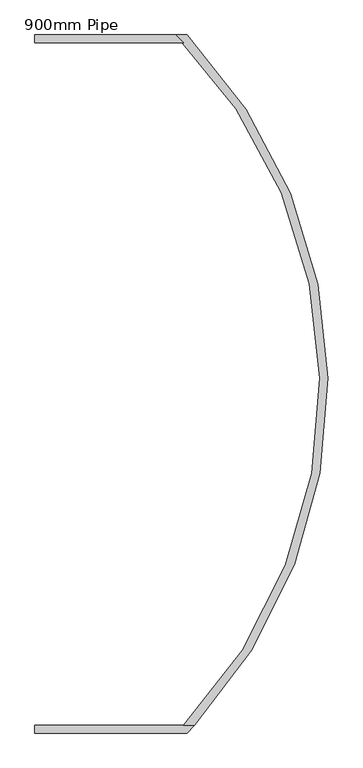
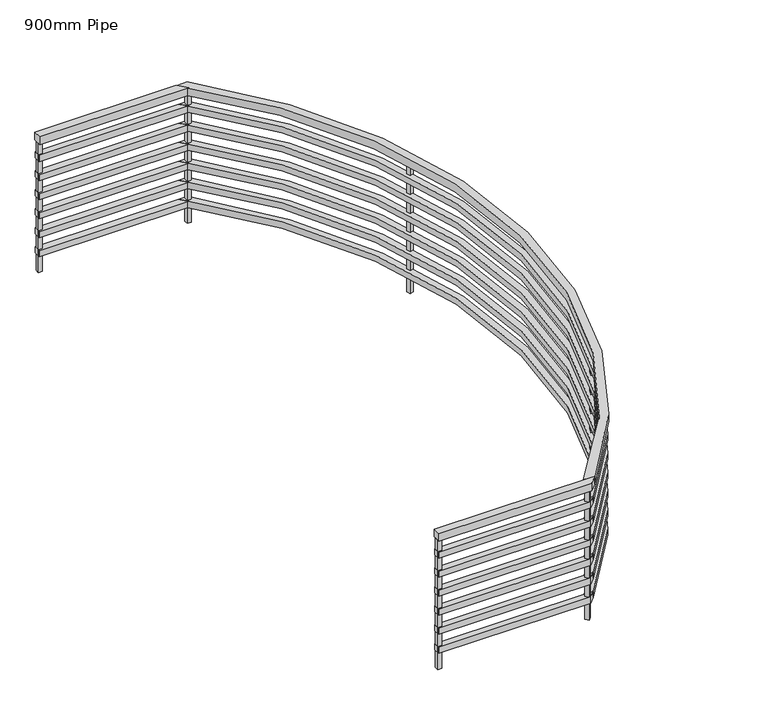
"""IFC4 building model written with IfcOpenShell, lengths in millimetres: railing geometry, 900mm Pipe."""

import ifcopenshell
import ifcopenshell.guid

model = None  # the IFC model being written
_history = None  # IfcOwnerHistory: only IFC2X3 demands one
_inside = {}  # id of a spatial element -> (the spatial element, [elements in it])
_under = {}  # id of a project, library or spatial element -> (it, [spatial elements below it])
_declared = {}  # id of a project -> (the project, [libraries it declares])
_typed = {}  # id of a type object -> (the type object, [elements of that type])
_made_of = {}  # id of a material, layer set ... -> (it, [elements and type objects made of it])


def new_model(schema):
    """Start an empty IFC model of exactly this schema.

    Asked for "IFC4X3", IfcOpenShell would pick the latest addendum, in which some entities
    have other attributes; the version numbers below select the first issue.
    IFC2X3 requires an IfcOwnerHistory on every rooted entity: one is made here for all.
    """
    global model, _history
    if schema == "IFC4X3":
        model = ifcopenshell.file(schema_version=(4, 3, 0, 0))
    else:
        model = ifcopenshell.file(schema=schema)
    _inside.clear()
    _under.clear()
    _declared.clear()
    _typed.clear()
    _made_of.clear()
    _history = None
    if model.schema == "IFC2X3":
        org = make("IfcOrganization", Name="unknown")
        user = make(
            "IfcPersonAndOrganization",
            ThePerson=make("IfcPerson", FamilyName="unknown"),
            TheOrganization=org,
        )
        app = make(
            "IfcApplication",
            ApplicationDeveloper=org,
            Version="unknown",
            ApplicationFullName="unknown",
            ApplicationIdentifier="unknown",
        )
        _history = make(
            "IfcOwnerHistory",
            OwningUser=user,
            OwningApplication=app,
            ChangeAction="ADDED",
            CreationDate=0,
        )
    return model


def make(cls, **values):
    """One entity of the class cls with the attributes given. An attribute that is None is left unset."""
    return model.create_entity(
        cls, **{name: value for name, value in values.items() if value is not None}
    )


def rooted(cls, **values):
    """An entity with a GlobalId (a new one), such as an element, a storey or a relation."""
    return make(cls, GlobalId=ifcopenshell.guid.new(), OwnerHistory=_history, **values)


def si_unit(unit_type, name, prefix=None):
    """IfcSIUnit, for example si_unit("LENGTHUNIT", "METRE", prefix="MILLI")."""
    return make("IfcSIUnit", UnitType=unit_type, Prefix=prefix, Name=name)


def assignment(units):
    """IfcUnitAssignment: the units of a project."""
    return None if units is None else make("IfcUnitAssignment", Units=units)


def point(xyz):
    """IfcCartesianPoint."""
    return None if xyz is None else make("IfcCartesianPoint", Coordinates=xyz)


def direction(xyz):
    """IfcDirection."""
    return None if xyz is None else make("IfcDirection", DirectionRatios=xyz)


def frame(location, z_axis=None, x_axis=None):
    """IfcAxis2Placement3D, a coordinate frame: its origin and axes. An axis left out is left unset."""
    return make(
        "IfcAxis2Placement3D",
        Location=point(location),
        Axis=direction(z_axis),
        RefDirection=direction(x_axis),
    )


def frame_2d(location, x_axis=None):
    """IfcAxis2Placement2D, a coordinate frame in the plane: its origin and x axis."""
    return make(
        "IfcAxis2Placement2D", Location=point(location), RefDirection=direction(x_axis)
    )


def origin():
    """The frame at (0, 0, 0) with its axes left unset."""
    return frame((0.0, 0.0, 0.0))


def place(relative_to, where):
    """IfcLocalPlacement: puts the frame where relative to a parent placement (None: the world)."""
    return make(
        "IfcLocalPlacement", PlacementRelTo=relative_to, RelativePlacement=where
    )


def context(
    kind, dimensions, precision=None, world=None, true_north=None, identifier=None
):
    """IfcGeometricRepresentationContext, for example the 3D "Model" context."""
    return make(
        "IfcGeometricRepresentationContext",
        ContextIdentifier=identifier,
        ContextType=kind,
        CoordinateSpaceDimension=dimensions,
        Precision=precision,
        WorldCoordinateSystem=world,
        TrueNorth=true_north,
    )


def project(units=None, contexts=None):
    """IfcProject with its units and contexts."""
    return rooted(
        "IfcProject",
        Name="project",
        RepresentationContexts=contexts,
        UnitsInContext=assignment(units),
    )


def spatial(cls, under=None, at=None, **own):
    """A site, building, storey or space (cls), placed at a placement, below another one or the project."""
    s = rooted(cls, ObjectPlacement=at, **own)
    if under is not None:
        _under.setdefault(under.id(), (under, []))[1].append(s)
    return s


def polyline(points):
    """IfcPolyline through the points."""
    return make("IfcPolyline", Points=[point(p) for p in points])


def circle_curve(where, radius):
    """IfcCircle in the frame where."""
    return make("IfcCircle", Position=where, Radius=radius)


def trimmed(basis, trim1, trim2, sense, master):
    """IfcTrimmedCurve: the piece of a basis curve between two trims."""
    return make(
        "IfcTrimmedCurve",
        BasisCurve=basis,
        Trim1=trim1,
        Trim2=trim2,
        SenseAgreement=sense,
        MasterRepresentation=master,
    )


def segment(curve, same_sense, transition):
    """IfcCompositeCurveSegment."""
    return make(
        "IfcCompositeCurveSegment",
        Transition=transition,
        SameSense=same_sense,
        ParentCurve=curve,
    )


def composite_curve(segments, self_intersect=None):
    """IfcCompositeCurve: segments joined end to end."""
    return make("IfcCompositeCurve", Segments=segments, SelfIntersect=self_intersect)


def outline(outer, holes=None, kind="AREA"):
    """IfcArbitraryClosedProfileDef: a profile drawn as a closed curve; with holes, ...WithVoids."""
    if holes is None:
        return make("IfcArbitraryClosedProfileDef", ProfileType=kind, OuterCurve=outer)
    return make(
        "IfcArbitraryProfileDefWithVoids",
        ProfileType=kind,
        OuterCurve=outer,
        InnerCurves=holes,
    )


def extrude(swept, where, along, depth):
    """IfcExtrudedAreaSolid: the profile swept, set in the frame where, extruded along a direction by depth."""
    return make(
        "IfcExtrudedAreaSolid",
        SweptArea=swept,
        Position=where,
        ExtrudedDirection=direction(along),
        Depth=depth,
    )


def shape(context_of_items, identifier, shape_type, items):
    """IfcShapeRepresentation: the items that make up one representation, for example the "Body"."""
    return make(
        "IfcShapeRepresentation",
        ContextOfItems=context_of_items,
        RepresentationIdentifier=identifier,
        RepresentationType=shape_type,
        Items=items,
    )


def source(mapping_origin, context_of_items, identifier, shape_type, items):
    """IfcRepresentationMap: a shape defined once, which mapped items show again and again."""
    return make(
        "IfcRepresentationMap",
        MappingOrigin=mapping_origin,
        MappedRepresentation=shape(context_of_items, identifier, shape_type, items),
    )


def transform(
    local_origin,
    x_axis=None,
    y_axis=None,
    z_axis=None,
    scale=None,
    scale2=None,
    scale3=None,
    uniform=True,
):
    """IfcCartesianTransformationOperator3D, or its non-uniform kind. x_axis, y_axis, z_axis: its Axis1, 2, 3."""
    if uniform:
        return make(
            "IfcCartesianTransformationOperator3D",
            Axis1=direction(x_axis),
            Axis2=direction(y_axis),
            LocalOrigin=point(local_origin),
            Scale=scale,
            Axis3=direction(z_axis),
        )
    return make(
        "IfcCartesianTransformationOperator3DnonUniform",
        Axis1=direction(x_axis),
        Axis2=direction(y_axis),
        LocalOrigin=point(local_origin),
        Scale=scale,
        Axis3=direction(z_axis),
        Scale2=scale2,
        Scale3=scale3,
    )


def mapped(mapping_source, mapping_target):
    """IfcMappedItem: shows the shape of a source again, moved by a transform."""
    return make(
        "IfcMappedItem", MappingSource=mapping_source, MappingTarget=mapping_target
    )


def made_of(thing, what):
    """Note that an element or type object is made of a material, layer set ...; save() writes the relation."""
    if what is not None:
        _made_of.setdefault(what.id(), (what, []))[1].append(thing)
    return thing


def element(
    cls,
    number,
    at=None,
    inside=None,
    cuts=None,
    type_object=None,
    material=None,
    context=None,
    identifier="Body",
    shape_type=None,
    held_by="IfcProductDefinitionShape",
    body=None,
    shapes=None,
    **own,
):
    """One element of the class cls, such as IfcWall. Its Tag is "e" and its number.

    at: its placement. inside: the storey or other place that contains it. cuts: it is an
    opening in that element (IfcRelVoidsElement). A single representation is given by context,
    identifier, shape_type and body (its items); several are given by shapes. held_by: the class
    of the entity that holds the representations. save() writes the other relations.
    """
    e = rooted(cls, Tag="e%d" % number, ObjectPlacement=at, **own)
    if body is not None:
        shapes = [shape(context, identifier, shape_type, body)]
    if shapes is not None:
        e.Representation = make(held_by, Representations=shapes)
    if inside is not None:
        _inside.setdefault(inside.id(), (inside, []))[1].append(e)
    if cuts is not None:
        rooted(
            "IfcRelVoidsElement", RelatingBuildingElement=cuts, RelatedOpeningElement=e
        )
    if type_object is not None:
        _typed.setdefault(type_object.id(), (type_object, []))[1].append(e)
    return made_of(e, material)


def aggregate(whole, parts):
    """IfcRelAggregates: a whole, such as a stair, and the parts it consists of."""
    return rooted("IfcRelAggregates", RelatingObject=whole, RelatedObjects=parts)


def save(model, path):
    """Write the relations noted so far, then the file.

    IfcRelAggregates (storeys below a building ...), IfcRelContainedInSpatialStructure (elements
    in a storey), IfcRelDefinesByType, IfcRelAssociatesMaterial and IfcRelDeclares: one each for
    every whole, place, type object, material and project.
    """
    for whole, parts in _under.values():
        aggregate(whole, parts)
    for where, things in _inside.values():
        rooted(
            "IfcRelContainedInSpatialStructure",
            RelatedElements=things,
            RelatingStructure=where,
        )
    for kind, things in _typed.values():
        rooted("IfcRelDefinesByType", RelatedObjects=things, RelatingType=kind)
    for what, things in _made_of.values():
        rooted("IfcRelAssociatesMaterial", RelatedObjects=things, RelatingMaterial=what)
    for by, libraries in _declared.values():
        rooted("IfcRelDeclares", RelatingContext=by, RelatedDefinitions=libraries)
    model.write(path)


def railing_900mm_pipe_71d0ca38(model_context):
    return source(origin(), model_context, "Body", "SweptSolid", [
        extrude(outline(polyline([(9362.8037835, 1617.6290541), (9362.8037835, 1667.6290541), (10241.8771052, 1667.6290541), (10289.9161763, 1617.6290541), (9362.8037835, 1617.6290541)])), frame((0.0, 0.0, 3700.0), z_axis=(0.0, 0.0, 1.0), x_axis=(1.0, 0.0, 0.0)), (0.0, 0.0, 1.0), 50.0),
        extrude(outline(composite_curve([segment(trimmed(circle_curve(frame_2d((8062.8037835, -507.3709459)), 3078.236703), [point((10289.8907148, -2632.3709459))], [point((10241.0866392, 1667.6290541))], True, "CARTESIAN"), True, "CONTINUOUS"), segment(polyline([(10241.0866392, 1667.6290541), (10311.1898424, 1667.6290541)]), True, "CONTINUOUS"), segment(trimmed(circle_curve(frame_2d((8062.8037835, -507.3709459)), 3128.236703), [point((10311.1898424, 1667.6290541))], [point((10358.504084, -2632.3709459))], False, "CARTESIAN"), True, "CONTINUOUS"), segment(polyline([(10358.504084, -2632.3709459), (10289.8907148, -2632.3709459)]), True, "CONTINUOUS")], self_intersect=False)), frame((0.0, 0.0, 3700.0), z_axis=(0.0, 0.0, 1.0), x_axis=(1.0, 0.0, 0.0)), (0.0, 0.0, 1.0), 50.0),
        extrude(outline(polyline([(10358.6242668, -2632.3709459), (10311.6425003, -2682.3709459), (9362.8037835, -2682.3709459), (9362.8037835, -2632.3709459), (10358.6242668, -2632.3709459)])), frame((0.0, 0.0, 3700.0), z_axis=(0.0, 0.0, 1.0), x_axis=(1.0, 0.0, 0.0)), (0.0, 0.0, 1.0), 50.0),
        extrude(outline(polyline([(9362.8037835, 1622.6290541), (9362.8037835, 1662.6290541), (10253.614808, 1662.6290541), (10292.0460649, 1622.6290541), (9362.8037835, 1622.6290541)])), frame((0.0, 0.0, 3585.0), z_axis=(0.0, 0.0, 1.0), x_axis=(1.0, 0.0, 0.0)), (0.0, 0.0, 1.0), 40.0),
        extrude(outline(composite_curve([segment(trimmed(circle_curve(frame_2d((8062.8037835, -507.3709459)), 3083.236703), [point((10292.0297852, -2637.3709459))], [point((10253.1116538, 1662.6290541))], True, "CARTESIAN"), True, "CONTINUOUS"), segment(polyline([(10253.1116538, 1662.6290541), (10309.0690178, 1662.6290541)]), True, "CONTINUOUS"), segment(trimmed(circle_curve(frame_2d((8062.8037835, -507.3709459)), 3123.236703), [point((10309.0690178, 1662.6290541))], [point((10347.0339608, -2637.3709459))], False, "CARTESIAN"), True, "CONTINUOUS"), segment(polyline([(10347.0339608, -2637.3709459), (10292.0297852, -2637.3709459)]), True, "CONTINUOUS")], self_intersect=False)), frame((0.0, 0.0, 3585.0), z_axis=(0.0, 0.0, 1.0), x_axis=(1.0, 0.0, 0.0)), (0.0, 0.0, 1.0), 40.0),
        extrude(outline(polyline([(10347.1119533, -2637.3709459), (10309.3595011, -2677.3709459), (9362.8037835, -2677.3709459), (9362.8037835, -2637.3709459), (10347.1119533, -2637.3709459)])), frame((0.0, 0.0, 3585.0), z_axis=(0.0, 0.0, 1.0), x_axis=(1.0, 0.0, 0.0)), (0.0, 0.0, 1.0), 40.0),
        extrude(outline(polyline([(9362.8037835, 1622.6290541), (9362.8037835, 1662.6290541), (10253.614808, 1662.6290541), (10292.0460649, 1622.6290541), (9362.8037835, 1622.6290541)])), frame((0.0, 0.0, 3460.0), z_axis=(0.0, 0.0, 1.0), x_axis=(1.0, 0.0, 0.0)), (0.0, 0.0, 1.0), 40.0),
        extrude(outline(composite_curve([segment(trimmed(circle_curve(frame_2d((8062.8037835, -507.3709459)), 3083.236703), [point((10292.0297852, -2637.3709459))], [point((10253.1116538, 1662.6290541))], True, "CARTESIAN"), True, "CONTINUOUS"), segment(polyline([(10253.1116538, 1662.6290541), (10309.0690178, 1662.6290541)]), True, "CONTINUOUS"), segment(trimmed(circle_curve(frame_2d((8062.8037835, -507.3709459)), 3123.236703), [point((10309.0690178, 1662.6290541))], [point((10347.0339608, -2637.3709459))], False, "CARTESIAN"), True, "CONTINUOUS"), segment(polyline([(10347.0339608, -2637.3709459), (10292.0297852, -2637.3709459)]), True, "CONTINUOUS")], self_intersect=False)), frame((0.0, 0.0, 3460.0), z_axis=(0.0, 0.0, 1.0), x_axis=(1.0, 0.0, 0.0)), (0.0, 0.0, 1.0), 40.0),
        extrude(outline(polyline([(10347.1119533, -2637.3709459), (10309.3595011, -2677.3709459), (9362.8037835, -2677.3709459), (9362.8037835, -2637.3709459), (10347.1119533, -2637.3709459)])), frame((0.0, 0.0, 3460.0), z_axis=(0.0, 0.0, 1.0), x_axis=(1.0, 0.0, 0.0)), (0.0, 0.0, 1.0), 40.0),
        extrude(outline(polyline([(9362.8037835, 1622.6290541), (9362.8037835, 1662.6290541), (10253.614808, 1662.6290541), (10292.0460649, 1622.6290541), (9362.8037835, 1622.6290541)])), frame((0.0, 0.0, 3335.0), z_axis=(0.0, 0.0, 1.0), x_axis=(1.0, 0.0, 0.0)), (0.0, 0.0, 1.0), 40.0),
        extrude(outline(composite_curve([segment(trimmed(circle_curve(frame_2d((8062.8037835, -507.3709459)), 3083.236703), [point((10292.0297852, -2637.3709459))], [point((10253.1116538, 1662.6290541))], True, "CARTESIAN"), True, "CONTINUOUS"), segment(polyline([(10253.1116538, 1662.6290541), (10309.0690178, 1662.6290541)]), True, "CONTINUOUS"), segment(trimmed(circle_curve(frame_2d((8062.8037835, -507.3709459)), 3123.236703), [point((10309.0690178, 1662.6290541))], [point((10347.0339608, -2637.3709459))], False, "CARTESIAN"), True, "CONTINUOUS"), segment(polyline([(10347.0339608, -2637.3709459), (10292.0297852, -2637.3709459)]), True, "CONTINUOUS")], self_intersect=False)), frame((0.0, 0.0, 3335.0), z_axis=(0.0, 0.0, 1.0), x_axis=(1.0, 0.0, 0.0)), (0.0, 0.0, 1.0), 40.0),
        extrude(outline(polyline([(10347.1119533, -2637.3709459), (10309.3595011, -2677.3709459), (9362.8037835, -2677.3709459), (9362.8037835, -2637.3709459), (10347.1119533, -2637.3709459)])), frame((0.0, 0.0, 3335.0), z_axis=(0.0, 0.0, 1.0), x_axis=(1.0, 0.0, 0.0)), (0.0, 0.0, 1.0), 40.0),
        extrude(outline(polyline([(9362.8037835, 1622.6290541), (9362.8037835, 1662.6290541), (10253.614808, 1662.6290541), (10292.0460649, 1622.6290541), (9362.8037835, 1622.6290541)])), frame((0.0, 0.0, 3210.0), z_axis=(0.0, 0.0, 1.0), x_axis=(1.0, 0.0, 0.0)), (0.0, 0.0, 1.0), 40.0),
        extrude(outline(composite_curve([segment(trimmed(circle_curve(frame_2d((8062.8037835, -507.3709459)), 3083.236703), [point((10292.0297852, -2637.3709459))], [point((10253.1116538, 1662.6290541))], True, "CARTESIAN"), True, "CONTINUOUS"), segment(polyline([(10253.1116538, 1662.6290541), (10309.0690178, 1662.6290541)]), True, "CONTINUOUS"), segment(trimmed(circle_curve(frame_2d((8062.8037835, -507.3709459)), 3123.236703), [point((10309.0690178, 1662.6290541))], [point((10347.0339608, -2637.3709459))], False, "CARTESIAN"), True, "CONTINUOUS"), segment(polyline([(10347.0339608, -2637.3709459), (10292.0297852, -2637.3709459)]), True, "CONTINUOUS")], self_intersect=False)), frame((0.0, 0.0, 3210.0), z_axis=(0.0, 0.0, 1.0), x_axis=(1.0, 0.0, 0.0)), (0.0, 0.0, 1.0), 40.0),
        extrude(outline(polyline([(10347.1119533, -2637.3709459), (10309.3595011, -2677.3709459), (9362.8037835, -2677.3709459), (9362.8037835, -2637.3709459), (10347.1119533, -2637.3709459)])), frame((0.0, 0.0, 3210.0), z_axis=(0.0, 0.0, 1.0), x_axis=(1.0, 0.0, 0.0)), (0.0, 0.0, 1.0), 40.0),
        extrude(outline(polyline([(9362.8037835, 1622.6290541), (9362.8037835, 1662.6290541), (10253.614808, 1662.6290541), (10292.0460649, 1622.6290541), (9362.8037835, 1622.6290541)])), frame((0.0, 0.0, 3085.0), z_axis=(0.0, 0.0, 1.0), x_axis=(1.0, 0.0, 0.0)), (0.0, 0.0, 1.0), 40.0),
        extrude(outline(composite_curve([segment(trimmed(circle_curve(frame_2d((8062.8037835, -507.3709459)), 3083.236703), [point((10292.0297852, -2637.3709459))], [point((10253.1116538, 1662.6290541))], True, "CARTESIAN"), True, "CONTINUOUS"), segment(polyline([(10253.1116538, 1662.6290541), (10309.0690178, 1662.6290541)]), True, "CONTINUOUS"), segment(trimmed(circle_curve(frame_2d((8062.8037835, -507.3709459)), 3123.236703), [point((10309.0690178, 1662.6290541))], [point((10347.0339608, -2637.3709459))], False, "CARTESIAN"), True, "CONTINUOUS"), segment(polyline([(10347.0339608, -2637.3709459), (10292.0297852, -2637.3709459)]), True, "CONTINUOUS")], self_intersect=False)), frame((0.0, 0.0, 3085.0), z_axis=(0.0, 0.0, 1.0), x_axis=(1.0, 0.0, 0.0)), (0.0, 0.0, 1.0), 40.0),
        extrude(outline(polyline([(10347.1119533, -2637.3709459), (10309.3595011, -2677.3709459), (9362.8037835, -2677.3709459), (9362.8037835, -2637.3709459), (10347.1119533, -2637.3709459)])), frame((0.0, 0.0, 3085.0), z_axis=(0.0, 0.0, 1.0), x_axis=(1.0, 0.0, 0.0)), (0.0, 0.0, 1.0), 40.0),
        extrude(outline(polyline([(9362.8037835, 1622.6290541), (9362.8037835, 1662.6290541), (10253.614808, 1662.6290541), (10292.0460649, 1622.6290541), (9362.8037835, 1622.6290541)])), frame((0.0, 0.0, 2960.0), z_axis=(0.0, 0.0, 1.0), x_axis=(1.0, 0.0, 0.0)), (0.0, 0.0, 1.0), 40.0),
        extrude(outline(composite_curve([segment(trimmed(circle_curve(frame_2d((8062.8037835, -507.3709459)), 3083.236703), [point((10292.0297852, -2637.3709459))], [point((10253.1116538, 1662.6290541))], True, "CARTESIAN"), True, "CONTINUOUS"), segment(polyline([(10253.1116538, 1662.6290541), (10309.0690178, 1662.6290541)]), True, "CONTINUOUS"), segment(trimmed(circle_curve(frame_2d((8062.8037835, -507.3709459)), 3123.236703), [point((10309.0690178, 1662.6290541))], [point((10347.0339608, -2637.3709459))], False, "CARTESIAN"), True, "CONTINUOUS"), segment(polyline([(10347.0339608, -2637.3709459), (10292.0297852, -2637.3709459)]), True, "CONTINUOUS")], self_intersect=False)), frame((0.0, 0.0, 2960.0), z_axis=(0.0, 0.0, 1.0), x_axis=(1.0, 0.0, 0.0)), (0.0, 0.0, 1.0), 40.0),
        extrude(outline(polyline([(10347.1119533, -2637.3709459), (10309.3595011, -2677.3709459), (9362.8037835, -2677.3709459), (9362.8037835, -2637.3709459), (10347.1119533, -2637.3709459)])), frame((0.0, 0.0, 2960.0), z_axis=(0.0, 0.0, 1.0), x_axis=(1.0, 0.0, 0.0)), (0.0, 0.0, 1.0), 40.0),
        extrude(outline(polyline([(11022.1231238, -1482.255808), (11014.205723, -1505.9689851), (10990.492546, -1498.0515843), (10998.4099468, -1474.3384072), (11022.1231238, -1482.255808)])), frame((0.0, 0.0, 2850.0), z_axis=(0.0, 0.0, 1.0), x_axis=(1.0, 0.0, 0.0)), (0.0, 0.0, 1.0), 850.0),
        extrude(outline(polyline([(11014.205723, 491.2270932), (11022.1231238, 467.5139162), (10998.4099468, 459.5965154), (10990.492546, 483.3096924), (11014.205723, 491.2270932)])), frame((0.0, 0.0, 2850.0), z_axis=(0.0, 0.0, 1.0), x_axis=(1.0, 0.0, 0.0)), (0.0, 0.0, 1.0), 850.0),
        extrude(outline(polyline([(10318.239754, -2657.0174366), (10300.9191288, -2675.0450804), (10282.891485, -2657.7244552), (10300.2121102, -2639.6968114), (10318.239754, -2657.0174366)])), frame((0.0, 0.0, 2850.0), z_axis=(0.0, 0.0, 1.0), x_axis=(1.0, 0.0, 0.0)), (0.0, 0.0, 1.0), 850.0),
        extrude(outline(polyline([(10288.0656195, 1655.1290541), (10313.0656195, 1655.1290541), (10313.0656195, 1630.1290541), (10288.0656195, 1630.1290541), (10288.0656195, 1655.1290541)])), frame((0.0, 0.0, 2850.0), z_axis=(0.0, 0.0, 1.0), x_axis=(1.0, 0.0, 0.0)), (0.0, 0.0, 1.0), 850.0),
        extrude(outline(polyline([(9387.8037835, -2669.8709459), (9362.8037835, -2669.8709459), (9362.8037835, -2644.8709459), (9387.8037835, -2644.8709459), (9387.8037835, -2669.8709459)])), frame((0.0, 0.0, 2850.0), z_axis=(0.0, 0.0, 1.0), x_axis=(1.0, 0.0, 0.0)), (0.0, 0.0, 1.0), 850.0),
        extrude(outline(polyline([(9362.8037835, 1655.1290541), (9387.8037835, 1655.1290541), (9387.8037835, 1630.1290541), (9362.8037835, 1630.1290541), (9362.8037835, 1655.1290541)])), frame((0.0, 0.0, 2850.0), z_axis=(0.0, 0.0, 1.0), x_axis=(1.0, 0.0, 0.0)), (0.0, 0.0, 1.0), 850.0),
    ])


if __name__ == "__main__":
    model = new_model("IFC4")
    model_context = context("Model", 3, world=origin())
    ifc_project = project(units=[si_unit("LENGTHUNIT", "METRE", prefix="MILLI")], contexts=[model_context])
    site = spatial("IfcSite", under=ifc_project)
    building = spatial("IfcBuilding", under=site)
    placement = place(None, origin())
    railing_900mm_pipe_shape = railing_900mm_pipe_71d0ca38(model_context)
    element("IfcRailing", 1, ObjectType="900mm Pipe", at=placement, inside=building, context=model_context, shape_type="MappedRepresentation", body=[
        mapped(railing_900mm_pipe_shape, transform((0.0, 0.0, 0.0), x_axis=(1.0, 0.0, 0.0), y_axis=(0.0, 1.0, 0.0), z_axis=(0.0, 0.0, 1.0))),
    ])
    save(model, "model.ifc")
